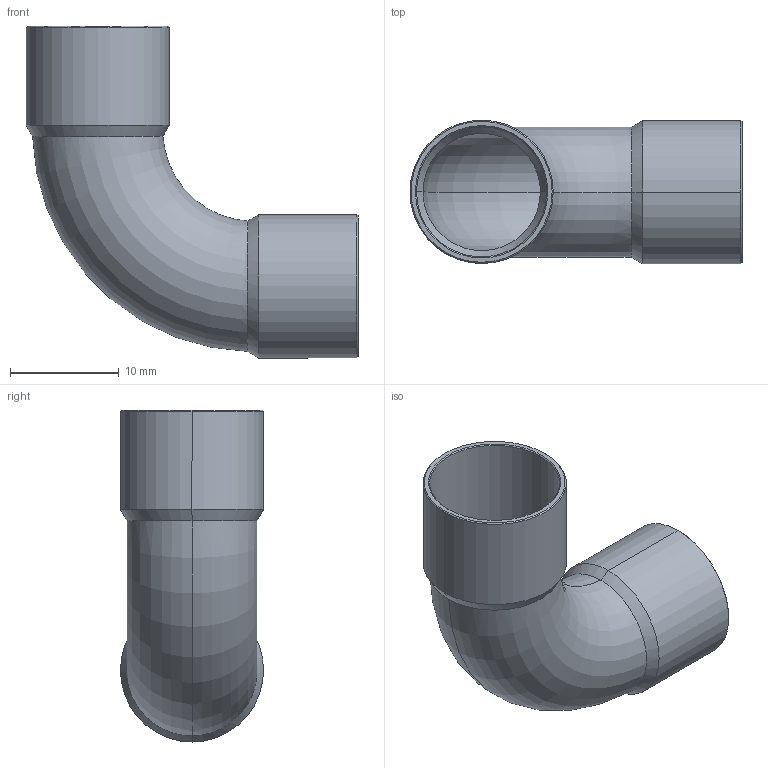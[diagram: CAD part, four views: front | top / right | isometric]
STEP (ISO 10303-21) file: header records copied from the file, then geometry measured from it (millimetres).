
FILE_DESCRIPTION((''),'2;1');
FILE_NAME('D:\5002\15002a12.stp','2005-10-04T10:54:21',('Kris'),(''),'Autodesk Inventor 8','Autodesk Inventor 8','');
FILE_SCHEMA(('AUTOMOTIVE_DESIGN { 1 0 10303 214 1 1 1 1 }'));
Length unit declared in the file: millimetre
Products named in the file (1): 15002a12
Bounding box: 30.6 x 13.2 x 30.6 mm (x, y, z)
Volume: 948.5 mm3; surface area: 3202.5 mm2
Topology: 1 solids, 1 shells, 30 faces, 60 edges, 32 vertices
Faces by surface type: cone 12, bspline 9, torus 4, cylinder 4, plane 1
Entity records: 1027 total; most frequent: CARTESIAN_POINT 414, DIRECTION 124, ORIENTED_EDGE 120, EDGE_CURVE 60, AXIS2_PLACEMENT_3D 50, VERTEX_POINT 32, EDGE_LOOP 32, FACE_OUTER_BOUND 30
